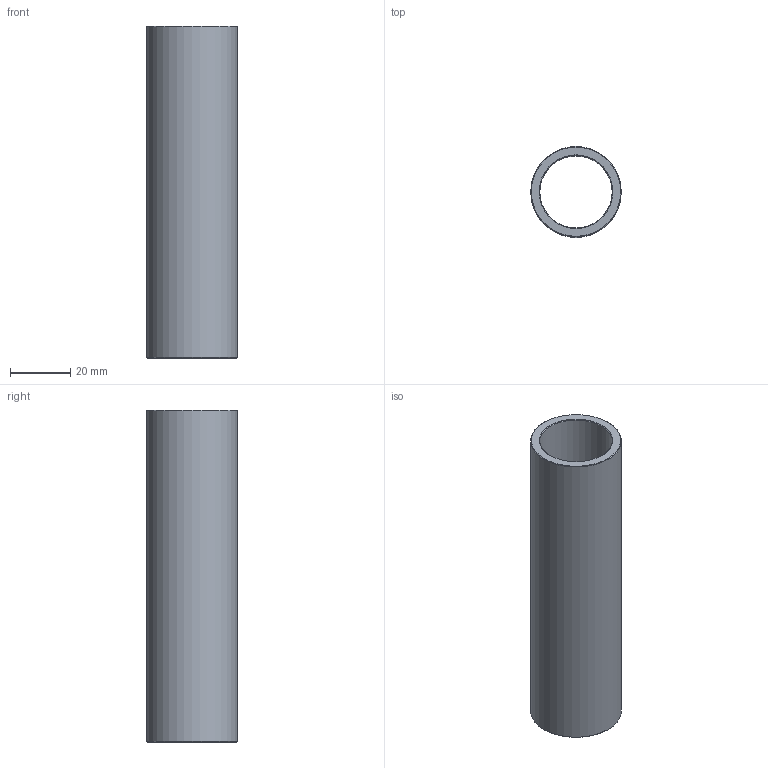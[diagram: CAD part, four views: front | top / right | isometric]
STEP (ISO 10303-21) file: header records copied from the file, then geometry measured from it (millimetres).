
FILE_DESCRIPTION(('STEP AP203'),'1');
FILE_NAME('C:/Users/Rodrigo/Desktop/GA3.024.110-1.step','2016-11-07T14:09:09',(' '),(' '),'Spatial InterOp 3D',' ',' ');
FILE_SCHEMA(('CONFIG_CONTROL_DESIGN'));
Length unit declared in the file: millimetre
Products named in the file (1): 1
Bounding box: 30 x 30 x 110 mm (x, y, z)
Volume: 27984.8 mm3; surface area: 19130.2 mm2
Topology: 1 solids, 1 shells, 8 faces, 14 edges, 8 vertices
Faces by surface type: cone 4, cylinder 2, plane 2
Full cylindrical faces by diameter (mm): 24 x1, 30 x1
Entity records: 212 total; most frequent: DIRECTION 34, CARTESIAN_POINT 25, AXIS2_PLACEMENT_3D 17, EDGE_LOOP 16, ORIENTED_EDGE 16, FACE_OUTER_BOUND 10, ADVANCED_FACE 8, EDGE_CURVE 8
